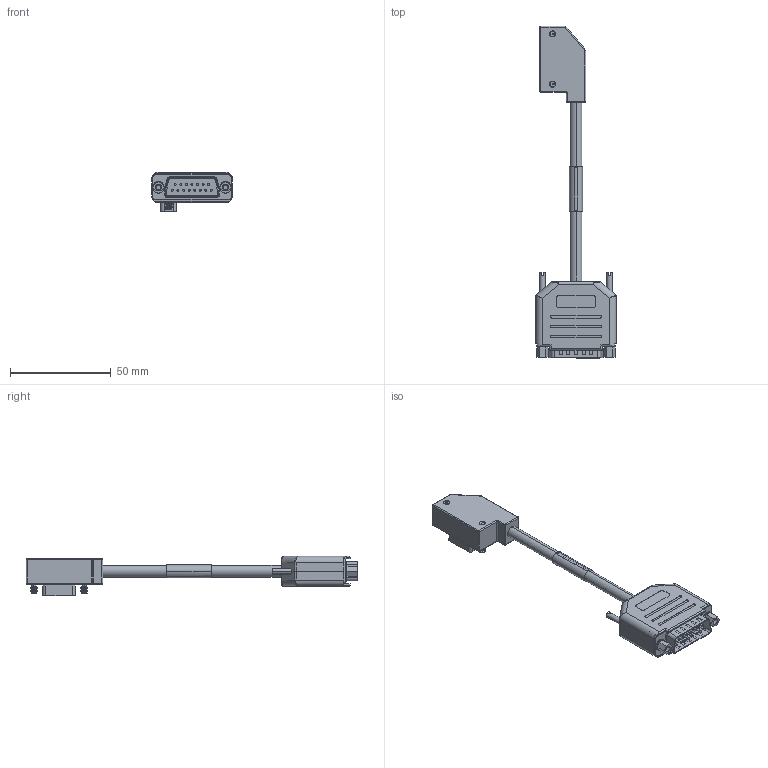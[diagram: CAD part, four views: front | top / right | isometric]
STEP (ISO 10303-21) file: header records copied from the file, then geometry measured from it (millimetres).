
FILE_DESCRIPTION (( 'STEP AP203' ), '1' );
FILE_NAME ('G1-To-KX_CABLE.STEP', '2023-11-28T16:23:46', ( '' ), ( '' ), 'SwSTEP 2.0', 'SolidWorks 2020', '' );
FILE_SCHEMA (( 'CONFIG_CONTROL_DESIGN' ));
Length unit declared in the file: inch
Products named in the file (1): G1-To-KX_CABLE
Bounding box: 40.01 x 164.96 x 19.62 mm (x, y, z)
Volume: 21796 mm3; surface area: 21157.3 mm2
Topology: 19 solids, 19 shells, 1058 faces, 2636 edges, 1655 vertices
Faces by surface type: plane 493, cylinder 436, bspline 59, cone 52, sphere 12, torus 6
Entity records: 33947 total; most frequent: CARTESIAN_POINT 8609, DIRECTION 5391, ORIENTED_EDGE 5168, EDGE_CURVE 2584, AXIS2_PLACEMENT_3D 1927, VERTEX_POINT 1655, VECTOR 1537, LINE 1537
